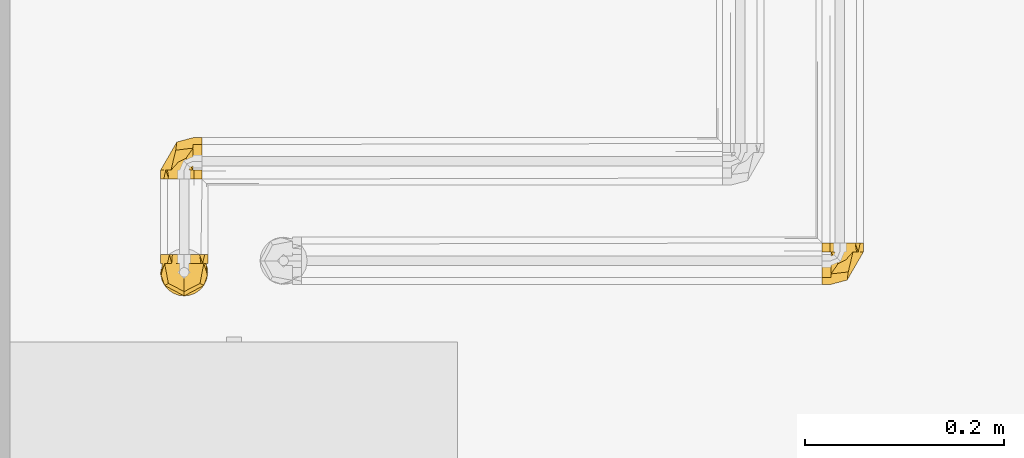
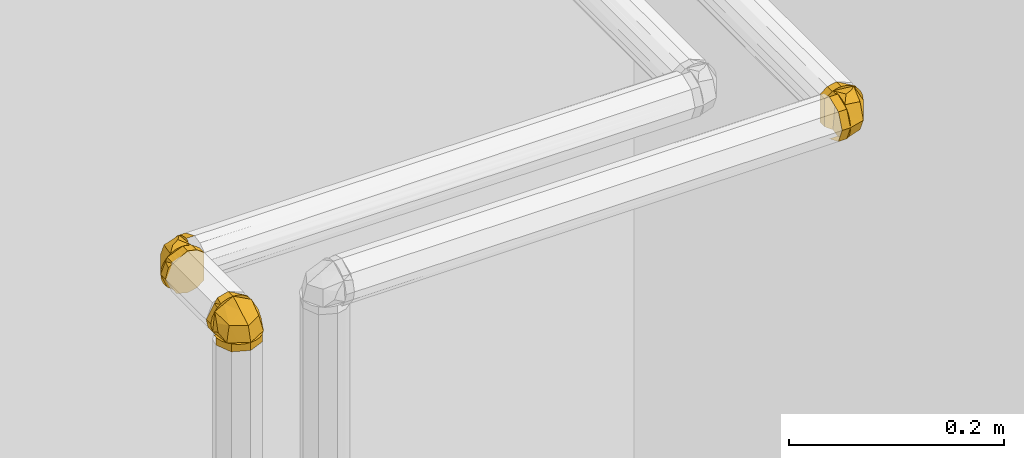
# One storey, part 282 of 652: 3 coverings.
"""IFC2X3 building model written with IfcOpenShell, lengths in millimetres."""

from ifc_helpers import new_model, entity, si_unit, converted_unit, direction, frame, origin, place, context, subcontext, project, spatial, face_set, surface_model, material, type_object, element, save


model = new_model("IFC2X3")

# Units and contexts
model_context = context("Model", 3, precision=0.01, world=frame((0.0, 0.0, 308426.39999999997)), true_north=direction((6.123233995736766e-17, 1.0)))
plan_context = context("Plan", 3, precision=0.01, world=frame((0.0, 0.0, 308426.39999999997)), true_north=direction((6.123233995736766e-17, 1.0)))
body_context = subcontext(model_context, "Body", "Model", "MODEL_VIEW")
ifc_project = project(units=[si_unit("LENGTHUNIT", "METRE", prefix="MILLI"), si_unit("AREAUNIT", "SQUARE_METRE"), si_unit("VOLUMEUNIT", "CUBIC_METRE"), converted_unit("PLANEANGLEUNIT", "DEGREE", entity("IfcPlaneAngleMeasure", 0.017453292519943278), si_unit("PLANEANGLEUNIT", "RADIAN"), dimensions=[0, 0, 0, 0, 0, 0, 0])], contexts=[model_context, plan_context])

# Site, building, storey
site_placement = place(None, origin())
site = spatial("IfcSite", under=ifc_project, at=site_placement, Name="Default", CompositionType="ELEMENT")
building_placement = place(site_placement, origin())
building = spatial("IfcBuilding", under=site, at=building_placement, CompositionType="ELEMENT")
storey_placement = place(building_placement, frame((0.0, 0.0, 1730.6999999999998)))
storey = spatial("IfcBuildingStorey", under=building, at=storey_placement, Name="EG_Produktion_FFB", CompositionType="ELEMENT", Elevation=1730.6999999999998)

# Coverings
ifc_material = material(Name="Dämmung - Armaflex-Schlauch")
covering_type = type_object("IfcCoveringType", Name="Rohrdämmung außen:Armaflex-Schlauch", PredefinedType="INSULATION")
covering_1_placement = place(storey_placement, frame((14599.642227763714, 36562.20091187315, 4174.642227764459)))
element("IfcCovering", 1, at=covering_1_placement, inside=storey, type_object=covering_type, material=ifc_material, Name="Rohrdämmung außen:Armaflex-Schlauch", ObjectType="Rohrdämmung außen:Armaflex-Schlauch", PredefinedType="INSULATION", context=body_context, shape_type="SurfaceModel", body=[
    surface_model("IfcFaceBasedSurfaceModel", [(34.28827223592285, 10.458420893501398, 3.337268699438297), (34.288272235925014, 16.054796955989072, 48.885203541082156), (34.288272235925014, 21.849513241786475, 48.99253247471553), (34.28827223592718, 27.4978539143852, 47.693877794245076), (34.28827223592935, 32.663810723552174, 45.06649381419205), (34.28827223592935, 37.04007144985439, 41.26667824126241), (34.28827223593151, 40.36630128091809, 36.52047434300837), (34.28827223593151, 42.44462959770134, 31.110224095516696), (34.28827223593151, 43.15142089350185, 25.35777223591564), (34.28827223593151, 42.44462959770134, 19.605320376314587), (34.28827223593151, 40.36630128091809, 14.195070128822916), (34.28827223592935, 37.04007144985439, 9.44886623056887), (34.28827223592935, 32.663810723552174, 5.649050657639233), (34.28827223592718, 27.4978539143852, 3.0216666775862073), (34.288272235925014, 21.849513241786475, 1.723011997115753), (34.288272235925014, 16.054796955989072, 1.83034093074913), (34.28827223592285, 10.458420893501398, 47.37827577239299), (28.69189617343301, 10.458420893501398, 48.885203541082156), (22.897179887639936, 10.45842089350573, 48.99253247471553), (17.24883921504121, 10.45842089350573, 47.693877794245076), (12.082882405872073, 10.45842089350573, 45.06649381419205), (7.706621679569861, 10.45842089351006, 41.26667824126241), (4.380391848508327, 10.45842089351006, 36.52047434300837), (2.3020635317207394, 10.45842089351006, 31.110224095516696), (1.595272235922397, 10.45842089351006, 25.35777223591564), (2.3020635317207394, 10.45842089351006, 19.605320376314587), (4.380391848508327, 10.45842089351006, 14.195070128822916), (7.706621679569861, 10.45842089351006, 9.44886623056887), (12.082882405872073, 10.45842089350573, 5.649050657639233), (17.24883921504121, 10.45842089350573, 3.0216666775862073), (22.897179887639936, 10.45842089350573, 1.723011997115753), (28.69189617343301, 10.458420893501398, 1.83034093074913), (19.38172243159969, 18.58019164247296, 2.9988778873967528), (16.866759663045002, 30.595737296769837, 9.49906251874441), (23.314040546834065, 10.457431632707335, 4.479601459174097), (34.28778932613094, 37.96738036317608, 15.617875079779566), (17.942275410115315, 38.77198241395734, 25.357978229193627), (6.839464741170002, 10.457431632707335, 15.50334718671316), (9.14048708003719, 23.526401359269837, 25.357978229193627), (27.207988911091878, 22.52413695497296, 2.1402093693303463), (34.28778932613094, 21.561405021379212, 4.492972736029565), (19.38172243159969, 18.58019164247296, 47.7170785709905), (27.207988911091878, 22.52413695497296, 48.57574708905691), (16.866759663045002, 30.595737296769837, 41.21631257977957), (34.28778932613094, 37.96738036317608, 35.09750001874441), (23.314040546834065, 10.457431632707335, 46.23577363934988), (6.77784059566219, 10.457431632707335, 35.09750001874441), (9.76835573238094, 24.614707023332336, 25.357978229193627), (34.28778932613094, 21.561405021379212, 46.222402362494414), (43.30816896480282, 19.38944457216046, 1.5954751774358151), (34.28778932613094, 19.38944457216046, 1.5954751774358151), (34.28778932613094, 36.19074462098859, 8.55493410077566), (43.30816896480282, 36.19074462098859, 8.55493410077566), (34.28778932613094, 43.15078490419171, 25.357978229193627), (43.30816896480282, 43.15078490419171, 25.357978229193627), (34.28778932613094, 36.19074462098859, 42.16044099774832), (43.30816896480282, 36.19074462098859, 42.16044099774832), (34.28778932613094, 19.38944457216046, 49.120481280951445), (43.30816896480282, 19.38944457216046, 49.120481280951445), (20.213040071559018, 1.438670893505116, 46.14995973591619), (15.06830790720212, 1.4386708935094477, 43.17964723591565), (9.923575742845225, 1.438670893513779, 40.209334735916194), (4.778843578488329, 1.438670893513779, 37.23902223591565), (3.1870579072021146, 1.438670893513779, 31.298397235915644), (1.5952722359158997, 1.438670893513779, 25.35777223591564), (4.56558473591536, 1.438670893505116, 20.213040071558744), (7.53589723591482, 1.4386708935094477, 15.06830790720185), (10.506209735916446, 1.4386708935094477, 9.923575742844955), (13.476522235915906, 1.438670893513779, 4.7788435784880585), (19.417147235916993, 1.438670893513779, 3.1870579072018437), (25.357772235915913, 1.438670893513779, 1.595272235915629), (30.23645211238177, 1.4386708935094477, 2.64312091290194), (35.11513198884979, 1.438670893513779, 3.690969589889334), (39.13327644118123, 1.438670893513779, 6.649688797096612), (43.15142089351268, 1.438670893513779, 9.608408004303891), (43.15142089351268, 1.438670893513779, 41.10713646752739), (39.13327644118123, 1.4386708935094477, 44.06585567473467), (35.11513198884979, 1.438670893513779, 47.02457488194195), (30.23645211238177, 1.438670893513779, 48.072423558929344), (25.357772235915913, 1.438670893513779, 49.12027223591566), (35.11513198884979, 10.458420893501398, 47.024574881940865), (39.241895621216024, 10.458420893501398, 43.985875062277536), (43.151420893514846, 10.458420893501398, 41.10713646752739), (43.151420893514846, 10.458420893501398, 9.608408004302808), (39.13327644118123, 10.458420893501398, 6.649688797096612), (35.11513198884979, 10.458420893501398, 3.690969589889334), (30.104570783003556, 10.458420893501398, 2.614795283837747), (25.357772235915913, 10.458420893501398, 1.595272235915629), (21.15711601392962, 10.458420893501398, 3.335241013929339), (16.956459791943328, 10.458420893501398, 5.075209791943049), (12.755803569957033, 10.458420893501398, 6.8151785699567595), (8.55514734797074, 10.458420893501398, 8.55514734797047), (6.815178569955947, 10.458420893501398, 12.755803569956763), (5.07520979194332, 10.458420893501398, 16.956459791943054), (3.3352410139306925, 10.458420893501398, 21.157116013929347), (1.5952722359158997, 10.458420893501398, 25.35777223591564), (3.3352410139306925, 10.458420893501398, 29.558428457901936), (5.07520979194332, 10.458420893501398, 33.759084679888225), (6.815178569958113, 10.458420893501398, 37.95974090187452), (8.55514734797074, 10.458420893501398, 42.16039712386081), (12.755803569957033, 10.458420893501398, 43.90036590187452), (16.956459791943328, 10.458420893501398, 45.640334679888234), (21.15711601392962, 10.458420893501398, 47.380303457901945), (25.357772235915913, 10.458420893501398, 49.12027223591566), (30.23645211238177, 10.458420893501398, 48.072423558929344)], [face_set([[[0, 1, 2, 3, 4, 5, 6, 7, 8, 9, 10, 11, 12, 13, 14, 15]], [[16, 17, 18, 19, 20, 21, 22, 23, 24, 25, 26, 27, 28, 29, 30, 31]], [[32, 28, 33]], [[32, 34, 28]], [[33, 35, 12]], [[35, 33, 36]], [[36, 8, 35]], [[33, 37, 38]], [[39, 12, 40]], [[32, 33, 39]], [[34, 32, 0]], [[12, 39, 33]], [[38, 36, 33]], [[0, 32, 39]], [[33, 28, 37]], [[37, 24, 38]], [[0, 39, 40]], [[41, 16, 42]], [[43, 44, 36]], [[20, 45, 41]], [[46, 43, 47]], [[44, 8, 36]], [[4, 43, 42]], [[44, 43, 4]], [[42, 16, 48]], [[20, 43, 46]], [[16, 41, 45]], [[43, 41, 42]], [[43, 36, 47]], [[47, 24, 46]], [[20, 41, 43]], [[48, 4, 42]]]), face_set([[[49, 50, 51, 52]], [[53, 54, 52, 51]], [[54, 53, 55, 56]], [[57, 58, 56, 55]]]), face_set([[[59, 60, 61, 62, 63, 64, 65, 66, 67, 68, 69, 70, 71, 72, 73, 74, 75, 76, 77, 78, 79]], [[80, 81, 82, 83, 84, 85, 86, 87, 88, 89, 90, 91, 92, 93, 94, 95, 96, 97, 98, 99, 100, 101, 102, 103, 104]], [[75, 74, 83, 82]], [[71, 70, 87, 86, 85, 72]], [[73, 72, 85, 84, 83, 74]], [[90, 67, 91]], [[64, 94, 65]], [[94, 93, 65]], [[69, 89, 88]], [[88, 87, 70]], [[67, 90, 68]], [[66, 93, 92]], [[64, 95, 94]], [[93, 66, 65]], [[70, 69, 88]], [[92, 91, 67]], [[90, 89, 68]], [[69, 68, 89]], [[66, 92, 67]], [[98, 61, 99]], [[79, 102, 59]], [[102, 101, 59]], [[63, 97, 96]], [[96, 95, 64]], [[61, 98, 62]], [[60, 101, 100]], [[79, 103, 102]], [[101, 60, 59]], [[64, 63, 96]], [[100, 99, 61]], [[98, 97, 62]], [[63, 62, 97]], [[60, 100, 61]], [[76, 75, 82, 81, 80, 77]], [[78, 77, 80, 104, 103, 79]]])]),
])
covering_2_placement = place(storey_placement, frame((14599.642227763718, 36444.64222776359, 4180.611079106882)))
element("IfcCovering", 2, at=covering_2_placement, inside=storey, type_object=covering_type, material=ifc_material, Name="Rohrdämmung außen:Armaflex-Schlauch", ObjectType="Rohrdämmung außen:Armaflex-Schlauch", PredefinedType="INSULATION", context=body_context, shape_type="SurfaceModel", body=[
    surface_model("IfcFaceBasedSurfaceModel", [(47.37827577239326, 34.28827223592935, 10.458420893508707), (48.885203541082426, 28.691896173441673, 10.458420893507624), (48.99253247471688, 22.897179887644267, 10.458420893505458), (47.693877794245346, 17.248839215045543, 10.458420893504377), (45.06649381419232, 12.08288240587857, 10.458420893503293), (41.26667824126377, 7.706621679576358, 10.45842089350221), (36.52047434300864, 4.380391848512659, 10.458420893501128), (31.11022409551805, 2.3020635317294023, 10.458420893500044), (25.357772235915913, 1.5952722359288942, 10.458420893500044), (19.60532037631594, 2.3020635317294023, 10.458420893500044), (14.195070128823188, 4.380391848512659, 10.458420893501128), (9.448866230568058, 7.706621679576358, 10.45842089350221), (5.649050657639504, 12.08288240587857, 10.458420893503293), (3.0216666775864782, 17.248839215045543, 10.458420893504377), (1.7230119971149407, 22.897179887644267, 10.458420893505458), (1.8303409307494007, 28.691896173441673, 10.458420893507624), (3.3372686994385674, 34.28827223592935, 10.458420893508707), (48.885203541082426, 34.28827223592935, 16.054796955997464), (48.99253247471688, 34.288272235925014, 21.84951324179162), (47.693877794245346, 34.288272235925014, 27.497853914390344), (45.06649381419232, 34.288272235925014, 32.66381072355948), (41.26667824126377, 34.28827223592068, 37.04007144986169), (36.52047434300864, 34.28827223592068, 40.36630128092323), (31.11022409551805, 34.28827223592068, 42.444629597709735), (25.357772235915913, 34.28827223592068, 43.15142089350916), (19.60532037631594, 34.28827223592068, 42.444629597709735), (14.195070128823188, 34.28827223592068, 40.36630128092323), (9.448866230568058, 34.28827223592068, 37.04007144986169), (5.649050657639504, 34.288272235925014, 32.663810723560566), (3.0216666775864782, 34.288272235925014, 27.497853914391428), (1.7230119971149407, 34.288272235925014, 21.84951324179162), (1.8303409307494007, 34.28827223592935, 16.054796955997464), (47.71720216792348, 26.166518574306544, 25.36550628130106), (41.21643617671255, 14.150972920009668, 27.879306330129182), (46.23589723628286, 34.28927858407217, 21.43202544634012), (35.098204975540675, 6.779329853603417, 10.458276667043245), (25.35810182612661, 5.9747278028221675, 26.80495330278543), (35.212151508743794, 34.28927858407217, 37.907763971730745), (25.35810182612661, 21.220308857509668, 35.60674163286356), (48.57528932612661, 22.22257326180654, 17.53865844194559), (46.22194459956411, 23.185305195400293, 10.458276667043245), (2.999001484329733, 26.166518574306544, 25.36550628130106), (2.1397516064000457, 22.22257326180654, 17.53865844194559), (9.498604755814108, 14.150972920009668, 27.879306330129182), (15.617998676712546, 6.779329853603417, 10.458276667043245), (4.480306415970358, 34.28927858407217, 21.43202544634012), (15.617998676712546, 34.28927858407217, 37.968806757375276), (25.35810182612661, 20.13200319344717, 34.97829162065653), (4.493096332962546, 23.185305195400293, 10.458276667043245), (49.120604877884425, 25.357265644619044, 1.4384783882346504), (49.120604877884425, 25.357265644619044, 10.458276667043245), (42.1605645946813, 8.555965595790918, 10.458276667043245), (42.1605645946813, 8.555965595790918, 1.4384783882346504), (25.35810182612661, 1.5959253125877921, 10.458276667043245), (25.35810182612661, 1.5959253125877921, 1.4384783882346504), (8.555639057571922, 8.555965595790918, 10.458276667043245), (8.555639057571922, 8.555965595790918, 1.4384783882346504), (1.5955987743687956, 25.357265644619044, 10.458276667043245), (1.5955987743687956, 25.357265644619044, 1.4384783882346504), (4.5655847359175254, 43.30802223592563, 24.533653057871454), (7.53589723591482, 43.30802223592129, 29.678385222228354), (10.506209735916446, 43.30802223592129, 34.823117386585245), (13.476522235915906, 43.308022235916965, 39.96784955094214), (19.417147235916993, 43.308022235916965, 41.55963522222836), (25.357772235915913, 43.308022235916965, 43.151420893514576), (30.50250440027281, 43.30802223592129, 40.18110839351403), (35.6472365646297, 43.30802223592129, 37.21079589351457), (40.791968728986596, 43.308022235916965, 34.240483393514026), (45.93670089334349, 43.308022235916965, 31.270170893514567), (47.52848656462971, 43.308022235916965, 25.329545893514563), (49.12027223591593, 43.308022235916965, 19.38892089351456), (48.07242355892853, 43.30802223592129, 14.510241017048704), (47.024574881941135, 43.308022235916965, 9.631561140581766), (44.06585567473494, 43.308022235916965, 5.613416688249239), (41.10713646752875, 43.308022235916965, 1.595272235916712), (9.608408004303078, 43.308022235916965, 1.595272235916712), (6.649688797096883, 43.30802223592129, 5.613416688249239), (3.690969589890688, 43.308022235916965, 9.631561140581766), (2.6431209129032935, 43.308022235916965, 14.510241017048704), (1.5952722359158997, 43.308022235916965, 19.38892089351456), (3.690969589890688, 34.28827223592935, 9.631561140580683), (6.729669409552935, 34.28827223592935, 5.504797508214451), (9.608408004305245, 34.28827223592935, 1.595272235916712), (41.10713646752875, 34.28827223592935, 1.595272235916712), (44.06585567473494, 34.28827223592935, 5.613416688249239), (47.024574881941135, 34.28827223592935, 9.631561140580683), (48.100749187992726, 34.28827223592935, 14.64212234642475), (49.12027223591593, 34.28827223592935, 19.38892089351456), (47.38030345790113, 34.28827223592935, 23.589577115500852), (45.640334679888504, 34.28827223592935, 27.790233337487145), (43.90036590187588, 34.28827223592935, 31.99088955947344), (42.16039712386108, 34.28827223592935, 36.19154578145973), (37.95974090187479, 34.28827223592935, 37.93151455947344), (33.759084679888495, 34.28827223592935, 39.67148333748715), (29.558428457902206, 34.28827223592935, 41.411452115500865), (25.357772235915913, 34.28827223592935, 43.151420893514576), (21.15711601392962, 34.28827223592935, 41.411452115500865), (16.956459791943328, 34.28827223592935, 39.67148333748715), (12.755803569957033, 34.28827223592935, 37.93151455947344), (8.55514734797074, 34.28827223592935, 36.19154578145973), (6.815178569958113, 34.28827223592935, 31.99088955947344), (5.07520979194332, 34.28827223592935, 27.790233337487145), (3.3352410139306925, 34.28827223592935, 23.589577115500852), (1.5952722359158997, 34.28827223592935, 19.38892089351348), (2.6431209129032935, 34.28827223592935, 14.510241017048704)], [face_set([[[0, 1, 2, 3, 4, 5, 6, 7, 8, 9, 10, 11, 12, 13, 14, 15]], [[16, 17, 18, 19, 20, 21, 22, 23, 24, 25, 26, 27, 28, 29, 30, 31]], [[32, 20, 33]], [[32, 34, 20]], [[33, 35, 4]], [[35, 33, 36]], [[36, 8, 35]], [[33, 37, 38]], [[39, 4, 40]], [[32, 33, 39]], [[34, 32, 0]], [[4, 39, 33]], [[38, 36, 33]], [[0, 32, 39]], [[33, 20, 37]], [[37, 24, 38]], [[0, 39, 40]], [[41, 16, 42]], [[43, 44, 36]], [[28, 45, 41]], [[46, 43, 47]], [[44, 8, 36]], [[12, 43, 42]], [[44, 43, 12]], [[42, 16, 48]], [[28, 43, 46]], [[16, 41, 45]], [[43, 41, 42]], [[43, 36, 47]], [[47, 24, 46]], [[28, 41, 43]], [[48, 12, 42]]]), face_set([[[49, 50, 51, 52]], [[53, 54, 52, 51]], [[54, 53, 55, 56]], [[57, 58, 56, 55]]]), face_set([[[59, 60, 61, 62, 63, 64, 65, 66, 67, 68, 69, 70, 71, 72, 73, 74, 75, 76, 77, 78, 79]], [[80, 81, 82, 83, 84, 85, 86, 87, 88, 89, 90, 91, 92, 93, 94, 95, 96, 97, 98, 99, 100, 101, 102, 103, 104]], [[75, 74, 83, 82]], [[71, 70, 87, 86, 85, 72]], [[73, 72, 85, 84, 83, 74]], [[90, 67, 91]], [[64, 94, 65]], [[94, 93, 65]], [[69, 89, 88]], [[88, 87, 70]], [[67, 90, 68]], [[66, 93, 92]], [[64, 95, 94]], [[93, 66, 65]], [[70, 69, 88]], [[92, 91, 67]], [[90, 89, 68]], [[69, 68, 89]], [[66, 92, 67]], [[98, 61, 99]], [[79, 102, 59]], [[102, 101, 59]], [[63, 97, 96]], [[96, 95, 64]], [[61, 98, 62]], [[60, 101, 100]], [[79, 103, 102]], [[101, 60, 59]], [[64, 63, 96]], [[100, 99, 61]], [[98, 97, 62]], [[63, 62, 97]], [[60, 100, 61]], [[76, 75, 82, 81, 80, 77]], [[78, 77, 80, 104, 103, 79]]])]),
])
covering_3_placement = place(storey_placement, frame((15264.80478181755, 36456.232060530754, 4174.642227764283)))
element("IfcCovering", 3, at=covering_3_placement, inside=storey, type_object=covering_type, material=ifc_material, Name="Rohrdämmung außen:Armaflex-Schlauch", ObjectType="Rohrdämmung außen:Armaflex-Schlauch", PredefinedType="INSULATION", context=body_context, shape_type="SurfaceModel", body=[
    surface_model("IfcFaceBasedSurfaceModel", [(10.458420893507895, 34.288272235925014, 3.337268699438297), (10.45842089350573, 28.691896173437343, 1.83034093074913), (10.45842089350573, 22.897179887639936, 1.723011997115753), (10.458420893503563, 17.24883921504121, 3.0216666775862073), (10.458420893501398, 12.082882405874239, 5.649050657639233), (10.458420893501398, 7.706621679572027, 9.44886623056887), (10.458420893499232, 4.380391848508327, 14.195070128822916), (10.458420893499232, 2.302063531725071, 19.605320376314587), (10.458420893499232, 1.5952722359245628, 25.35777223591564), (10.458420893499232, 2.302063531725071, 31.110224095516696), (10.458420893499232, 4.380391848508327, 36.52047434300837), (10.458420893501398, 7.706621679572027, 41.26667824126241), (10.458420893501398, 12.082882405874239, 45.06649381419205), (10.458420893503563, 17.24883921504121, 47.693877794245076), (10.45842089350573, 22.897179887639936, 48.99253247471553), (10.45842089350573, 28.691896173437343, 48.885203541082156), (10.458420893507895, 34.288272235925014, 47.37827577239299), (16.054796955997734, 34.288272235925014, 1.83034093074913), (21.849513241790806, 34.28827223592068, 1.723011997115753), (27.497853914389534, 34.28827223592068, 3.0216666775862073), (32.66381072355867, 34.28827223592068, 5.649050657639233), (37.04007144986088, 34.28827223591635, 9.44886623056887), (40.366301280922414, 34.28827223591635, 14.195070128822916), (42.444629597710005, 34.28827223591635, 19.605320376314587), (43.151420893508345, 34.28827223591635, 25.35777223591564), (42.444629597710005, 34.28827223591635, 31.110224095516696), (40.366301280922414, 34.28827223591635, 36.52047434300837), (37.04007144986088, 34.28827223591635, 41.26667824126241), (32.66381072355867, 34.28827223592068, 45.06649381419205), (27.497853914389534, 34.28827223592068, 47.693877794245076), (21.849513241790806, 34.28827223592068, 48.99253247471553), (16.054796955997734, 34.288272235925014, 48.885203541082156), (25.365411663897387, 26.166676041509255, 2.9988778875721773), (27.87921171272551, 14.15113038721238, 9.499062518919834), (21.431930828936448, 34.28711061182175, 4.479601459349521), (10.458182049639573, 6.777161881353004, 15.61787507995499), (26.80485868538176, 5.974885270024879, 25.357978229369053), (37.907669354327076, 34.28711061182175, 15.503347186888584), (35.606647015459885, 21.22046632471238, 25.357978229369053), (17.539145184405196, 22.222730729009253, 2.140209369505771), (10.458182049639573, 23.185462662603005, 4.492972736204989), (25.365411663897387, 26.166676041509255, 47.71707857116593), (17.539145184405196, 22.222730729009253, 48.57574708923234), (27.87921171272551, 14.15113038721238, 41.216312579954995), (10.458182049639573, 6.777161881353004, 35.09750001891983), (21.431930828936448, 34.28711061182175, 46.235773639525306), (37.968130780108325, 34.28711061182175, 35.09750001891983), (34.977615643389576, 20.13216066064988, 25.357978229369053), (10.458182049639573, 23.185462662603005, 46.22240236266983), (1.4389651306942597, 25.357423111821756, 1.5954751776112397), (10.458182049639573, 25.357423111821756, 1.5954751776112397), (10.458182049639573, 8.55612306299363, 8.554934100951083), (1.4389651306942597, 8.55612306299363, 8.554934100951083), (10.458182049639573, 1.596082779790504, 25.357978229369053), (1.4389651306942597, 1.596082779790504, 25.357978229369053), (10.458182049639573, 8.55612306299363, 42.16044099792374), (1.4389651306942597, 8.55612306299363, 42.16044099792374), (10.458182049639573, 25.357423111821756, 49.120481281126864), (1.4389651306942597, 25.357423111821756, 49.120481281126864), (24.533653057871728, 43.308022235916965, 46.14995973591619), (29.678385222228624, 43.308022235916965, 43.17964723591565), (34.82311738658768, 43.308022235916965, 40.209334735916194), (39.96784955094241, 43.30802223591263, 37.23902223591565), (41.55963522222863, 43.30802223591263, 31.298397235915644), (43.151420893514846, 43.30802223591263, 25.35777223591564), (40.18110839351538, 43.30802223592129, 20.213040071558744), (37.21079589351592, 43.308022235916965, 15.06830790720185), (34.240483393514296, 43.30802223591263, 9.923575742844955), (31.270170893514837, 43.30802223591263, 4.7788435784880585), (25.32954589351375, 43.30802223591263, 3.1870579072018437), (19.388920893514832, 43.30802223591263, 1.595272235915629), (14.510241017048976, 43.308022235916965, 2.64312091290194), (9.631561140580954, 43.30802223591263, 3.690969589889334), (5.61341668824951, 43.30802223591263, 6.649688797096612), (1.5952722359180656, 43.30802223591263, 9.608408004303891), (1.5952722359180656, 43.30802223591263, 41.10713646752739), (5.61341668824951, 43.308022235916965, 44.06585567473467), (9.631561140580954, 43.30802223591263, 47.02457488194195), (14.510241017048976, 43.30802223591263, 48.072423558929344), (19.388920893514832, 43.30802223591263, 49.12027223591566), (9.631561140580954, 34.288272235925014, 47.024574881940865), (5.504797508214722, 34.288272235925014, 43.985875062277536), (1.5952722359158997, 34.288272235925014, 41.10713646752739), (1.5952722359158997, 34.288272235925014, 9.608408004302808), (5.61341668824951, 34.288272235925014, 6.649688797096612), (9.631561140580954, 34.288272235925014, 3.690969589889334), (14.642122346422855, 34.28827223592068, 2.614795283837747), (19.388920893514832, 34.288272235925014, 1.595272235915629), (23.589577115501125, 34.288272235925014, 3.335241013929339), (27.790233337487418, 34.288272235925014, 5.075209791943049), (31.99088955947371, 34.288272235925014, 6.8151785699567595), (36.19154578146, 34.288272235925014, 8.55514734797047), (37.93151455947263, 34.288272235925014, 12.755803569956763), (39.67148333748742, 34.288272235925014, 16.956459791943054), (41.41145211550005, 34.28827223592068, 21.157116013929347), (43.151420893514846, 34.288272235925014, 25.35777223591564), (41.41145211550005, 34.28827223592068, 29.558428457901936), (39.67148333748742, 34.288272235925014, 33.759084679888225), (37.9315145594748, 34.28827223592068, 37.95974090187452), (36.19154578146, 34.288272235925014, 42.16039712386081), (31.99088955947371, 34.288272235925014, 43.90036590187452), (27.790233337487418, 34.288272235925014, 45.640334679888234), (23.589577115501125, 34.288272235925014, 47.380303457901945), (19.388920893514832, 34.288272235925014, 49.12027223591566), (14.510241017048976, 34.288272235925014, 48.072423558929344)], [face_set([[[0, 1, 2, 3, 4, 5, 6, 7, 8, 9, 10, 11, 12, 13, 14, 15]], [[16, 17, 18, 19, 20, 21, 22, 23, 24, 25, 26, 27, 28, 29, 30, 31]], [[32, 20, 33]], [[32, 34, 20]], [[33, 35, 4]], [[35, 33, 36]], [[36, 8, 35]], [[33, 37, 38]], [[39, 4, 40]], [[32, 33, 39]], [[34, 32, 0]], [[4, 39, 33]], [[38, 36, 33]], [[0, 32, 39]], [[33, 20, 37]], [[37, 24, 38]], [[0, 39, 40]], [[41, 16, 42]], [[43, 44, 36]], [[28, 45, 41]], [[46, 43, 47]], [[44, 8, 36]], [[12, 43, 42]], [[44, 43, 12]], [[42, 16, 48, 12]], [[28, 43, 46]], [[16, 41, 45]], [[43, 41, 42]], [[43, 36, 47]], [[47, 24, 46]], [[28, 41, 43]]]), face_set([[[49, 50, 51, 52]], [[53, 54, 52, 51]], [[54, 53, 55, 56]], [[57, 58, 56, 55]]]), face_set([[[59, 60, 61, 62, 63, 64, 65, 66, 67, 68, 69, 70, 71, 72, 73, 74, 75, 76, 77, 78, 79]], [[80, 81, 82, 83, 84, 85, 86, 87, 88, 89, 90, 91, 92, 93, 94, 95, 96, 97, 98, 99, 100, 101, 102, 103, 104]], [[75, 74, 83, 82]], [[71, 70, 87, 86, 85, 72]], [[73, 72, 85, 84, 83, 74]], [[90, 67, 91]], [[64, 94, 65]], [[94, 93, 65]], [[69, 89, 88]], [[88, 87, 70]], [[67, 90, 68]], [[66, 93, 92]], [[64, 95, 94]], [[93, 66, 65]], [[70, 69, 88]], [[92, 91, 67]], [[90, 89, 68]], [[69, 68, 89]], [[66, 92, 67]], [[98, 61, 99]], [[79, 102, 59]], [[102, 101, 59]], [[63, 97, 96]], [[96, 95, 64]], [[61, 98, 62]], [[60, 101, 100]], [[79, 103, 102]], [[101, 60, 59]], [[64, 63, 96]], [[100, 99, 61]], [[98, 97, 62]], [[63, 62, 97]], [[60, 100, 61]], [[76, 75, 82, 81, 80, 77]], [[78, 77, 80, 104, 103, 79]]])]),
])

save(model, "model.ifc")
